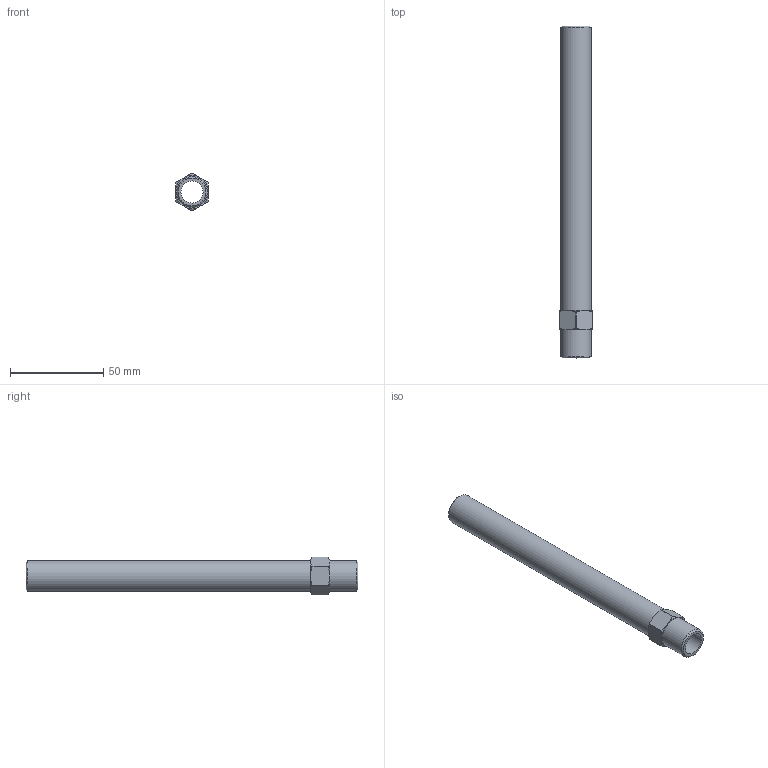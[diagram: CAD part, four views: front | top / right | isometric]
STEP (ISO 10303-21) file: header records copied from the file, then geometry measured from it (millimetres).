
FILE_DESCRIPTION(/* description */ (''),/* implementation_level */ '2;1');
FILE_NAME(/* name */ 'C:/Users/drich/Desktop/APN38-7 v1.step',/* time_stamp */ '2019-12-27T17:54:37-06:00',/* author */ (''),/* organization */ (''),/* preprocessor_version */ 'ST-DEVELOPER v18',/* originating_system */ 'Autodesk Translation Framework v8.12.0.6',/* authorisation */ '');
FILE_SCHEMA (('AUTOMOTIVE_DESIGN { 1 0 10303 214 3 1 1 }'));
Length unit declared in the file: inch
Products named in the file (1): APN38-7
Bounding box: 17.45 x 177.8 x 20.12 mm (x, y, z)
Volume: 18913.9 mm3; surface area: 16199 mm2
Topology: 1 solids, 1 shells, 33 faces, 89 edges, 60 vertices
Faces by surface type: cone 14, plane 10, cylinder 9
Full cylindrical faces by diameter (mm): 11.887 x1, 16.537 x2
Entity records: 1077 total; most frequent: CARTESIAN_POINT 231, ORIENTED_EDGE 178, DIRECTION 169, EDGE_CURVE 89, AXIS2_PLACEMENT_3D 70, VERTEX_POINT 60, EDGE_LOOP 37, CIRCLE 36
